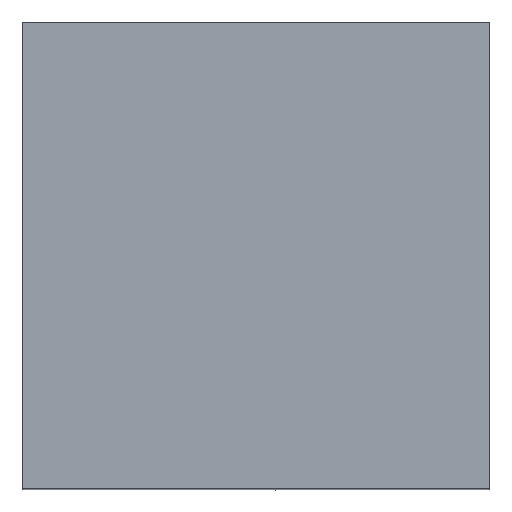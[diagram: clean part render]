
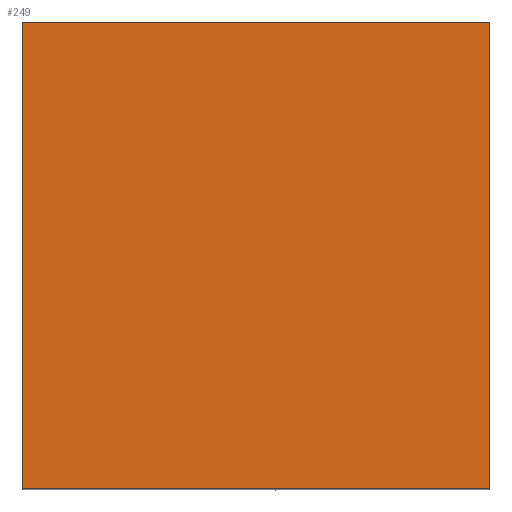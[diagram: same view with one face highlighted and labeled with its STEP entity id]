
A CAD part, top view. The second image highlights one B-rep face of the part: STEP entity #249.
In plain terms, the highlighted planar face has unit normal (0, 0, 1).
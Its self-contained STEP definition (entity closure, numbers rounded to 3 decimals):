
#20=LINE('',#377,#28);
#21=LINE('',#380,#29);
#22=LINE('',#382,#30);
#23=LINE('',#384,#31);
#28=VECTOR('',#304,1000.);
#29=VECTOR('',#305,1000.);
#30=VECTOR('',#306,1000.);
#31=VECTOR('',#307,1000.);
#44=PLANE('',#271);
#63=ORIENTED_EDGE('',*,*,#95,.T.);
#64=ORIENTED_EDGE('',*,*,#96,.T.);
#65=ORIENTED_EDGE('',*,*,#97,.T.);
#66=ORIENTED_EDGE('',*,*,#98,.T.);
#95=EDGE_CURVE('',#114,#115,#20,.T.);
#96=EDGE_CURVE('',#115,#116,#21,.T.);
#97=EDGE_CURVE('',#116,#117,#22,.T.);
#98=EDGE_CURVE('',#117,#114,#23,.T.);
#114=VERTEX_POINT('',#378);
#115=VERTEX_POINT('',#379);
#116=VERTEX_POINT('',#381);
#117=VERTEX_POINT('',#383);
#135=EDGE_LOOP('',(#63,#64,#65,#66));
#154=FACE_BOUND('',#135,.T.);
#249=ADVANCED_FACE('',(#154),#44,.T.);
#271=AXIS2_PLACEMENT_3D('',#376,#302,#303);
#302=DIRECTION('',(0.,0.,1.));
#303=DIRECTION('',(1.,0.,0.));
#304=DIRECTION('',(-1.,0.,0.));
#305=DIRECTION('',(0.,-1.,0.));
#306=DIRECTION('',(1.,0.,0.));
#307=DIRECTION('',(0.,1.,0.));
#376=CARTESIAN_POINT('',(0.,0.,0.));
#377=CARTESIAN_POINT('',(25.5,25.5,0.));
#378=CARTESIAN_POINT('',(25.5,25.5,0.));
#379=CARTESIAN_POINT('',(-25.5,25.5,0.));
#380=CARTESIAN_POINT('',(-25.5,25.5,0.));
#381=CARTESIAN_POINT('',(-25.5,-25.5,0.));
#382=CARTESIAN_POINT('',(-25.5,-25.5,0.));
#383=CARTESIAN_POINT('',(25.5,-25.5,0.));
#384=CARTESIAN_POINT('',(25.5,-25.5,0.));
